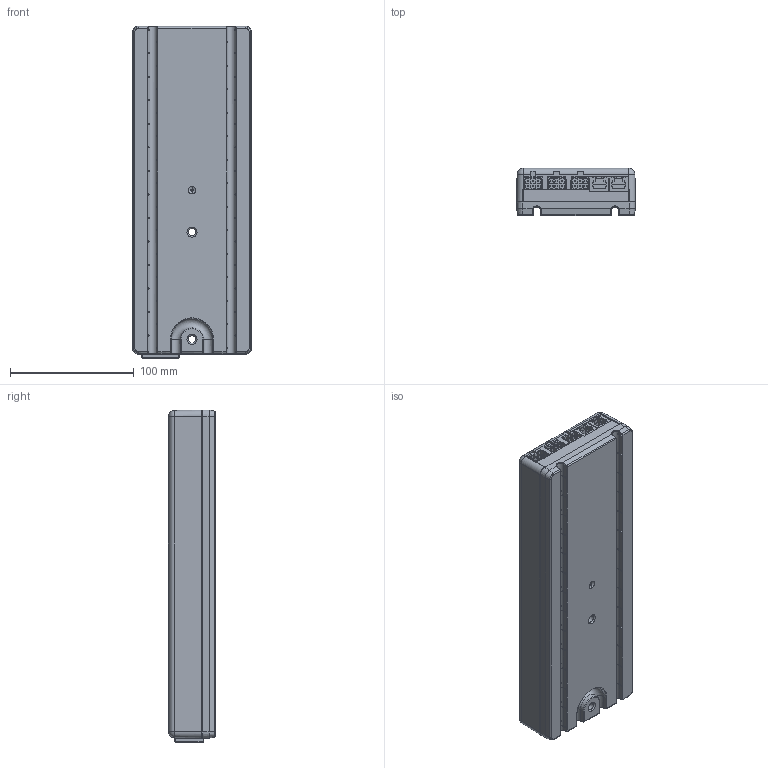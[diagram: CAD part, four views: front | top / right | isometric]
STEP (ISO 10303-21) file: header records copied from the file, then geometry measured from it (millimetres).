
FILE_DESCRIPTION((''),'2;1');
FILE_NAME('CBD6S-300W','2020-02-21T08:08:39',('bs'),(''),'CREO PARAMETRIC BY PTC INC, 2019344','CREO PARAMETRIC BY PTC INC, 2019344','');
FILE_SCHEMA(('AUTOMOTIVE_DESIGN { 1 0 10303 214 1 1 1 1 }'));
Products named in the file (1): CBD6S-300W
Bounding box: 96 x 38 x 268.11 mm (x, y, z)
Volume: 916604.3 mm3; surface area: 94365.2 mm2
Topology: 1 solids, 1 shells, 1871 faces, 4860 edges, 3097 vertices
Faces by surface type: plane 1126, cylinder 407, extrusion 175, bspline 104, cone 30, torus 17, sphere 12
Entity records: 77175 total; most frequent: CARTESIAN_POINT 20750, ORIENTED_EDGE 9696, DIRECTION 7712, EDGE_CURVE 4848, VECTOR 3630, LINE 3455, VERTEX_POINT 3097, AXIS2_PLACEMENT_3D 2041
